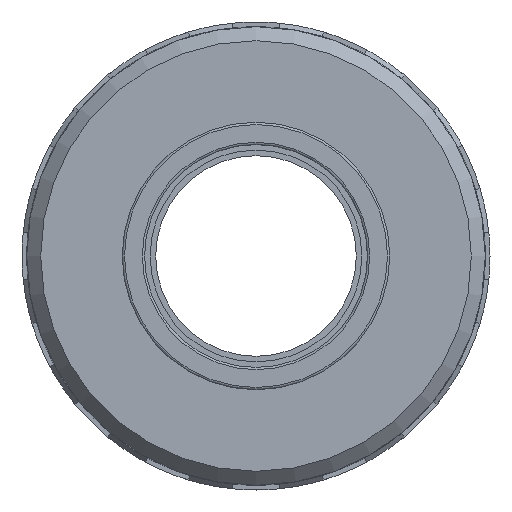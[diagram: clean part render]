
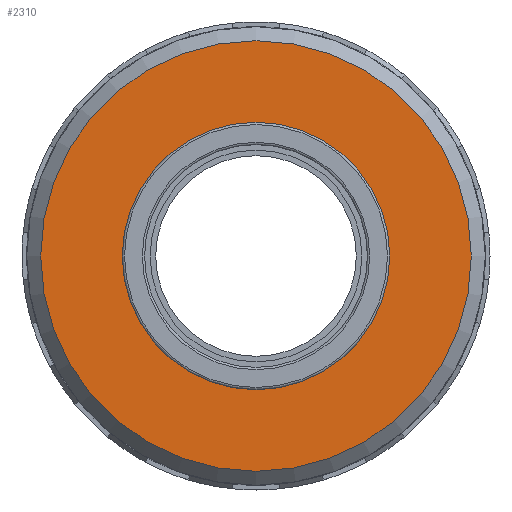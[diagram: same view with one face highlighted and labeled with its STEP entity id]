
A CAD part, left-side view. The second image highlights one B-rep face of the part: STEP entity #2310.
In plain terms, the highlighted planar face has unit normal (-1, 0, 0).
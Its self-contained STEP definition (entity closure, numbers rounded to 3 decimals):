
#62=FACE_BOUND('',#469,.T.);
#201=CIRCLE('',#2547,12.);
#204=CIRCLE('',#2554,19.32);
#328=FACE_OUTER_BOUND('',#468,.T.);
#468=EDGE_LOOP('',(#2104));
#469=EDGE_LOOP('',(#2105));
#1115=VERTEX_POINT('',#3927);
#1118=VERTEX_POINT('',#3939);
#1444=EDGE_CURVE('',#1115,#1115,#201,.T.);
#1449=EDGE_CURVE('',#1118,#1118,#204,.T.);
#2104=ORIENTED_EDGE('',*,*,#1449,.F.);
#2105=ORIENTED_EDGE('',*,*,#1444,.F.);
#2187=PLANE('',#2556);
#2310=ADVANCED_FACE('',(#328,#62),#2187,.T.);
#2547=AXIS2_PLACEMENT_3D('',#3928,#3232,#3233);
#2554=AXIS2_PLACEMENT_3D('',#3940,#3248,#3249);
#2556=AXIS2_PLACEMENT_3D('',#3942,#3252,#3253);
#3232=DIRECTION('center_axis',(-1.,0.,0.));
#3233=DIRECTION('ref_axis',(0.,0.,1.));
#3248=DIRECTION('center_axis',(1.,0.,0.));
#3249=DIRECTION('ref_axis',(0.,1.,0.));
#3252=DIRECTION('center_axis',(-1.,0.,0.));
#3253=DIRECTION('ref_axis',(0.,0.,1.));
#3927=CARTESIAN_POINT('',(-10.5,-12.,0.));
#3928=CARTESIAN_POINT('Origin',(-10.5,0.,0.));
#3939=CARTESIAN_POINT('',(-10.5,-19.32,0.));
#3940=CARTESIAN_POINT('Origin',(-10.5,0.,0.));
#3942=CARTESIAN_POINT('Origin',(-10.5,-12.,0.));
